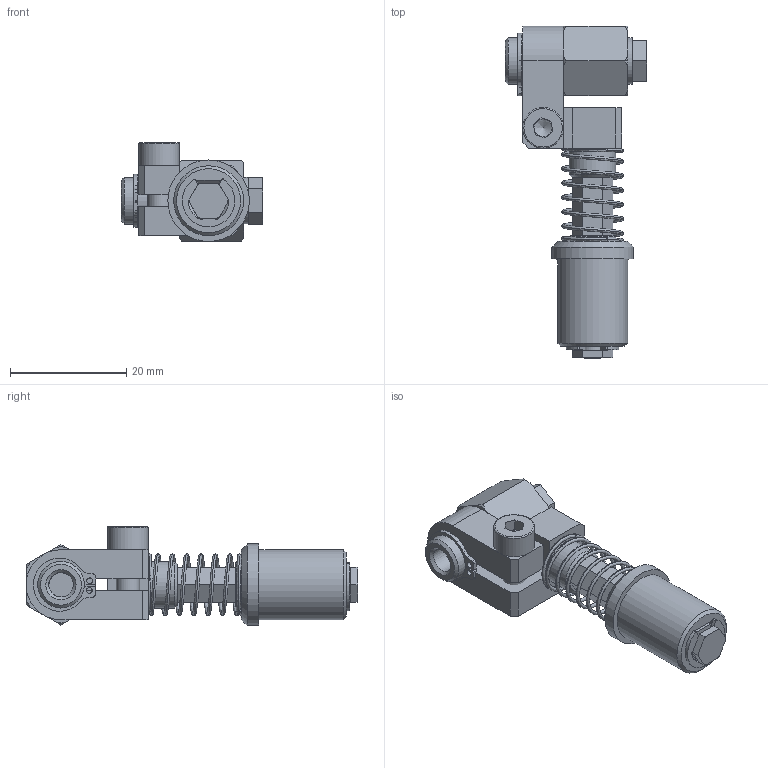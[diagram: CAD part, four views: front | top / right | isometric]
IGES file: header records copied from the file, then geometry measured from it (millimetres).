
Start section: SolidWorks IGES file using analytic representation for surfaces
Global section: file name: C:\Users\star054c\Desktop\3D データ(12.11)\210993\210993.IGS,15; native system: HSolidWorks 2013; preprocessor: SolidWorks 2013; author: STAR054C; date: 131213.155230; units: millimetre
Bounding box: 24.3 x 57 x 17 mm (x, y, z)
Surface area: 6660.2 mm2 (no closed solid volume)
Topology: 0 solids, 0 shells, 220 faces, 1157 edges, 1088 vertices
Faces by surface type: bspline 129, revolution 91
